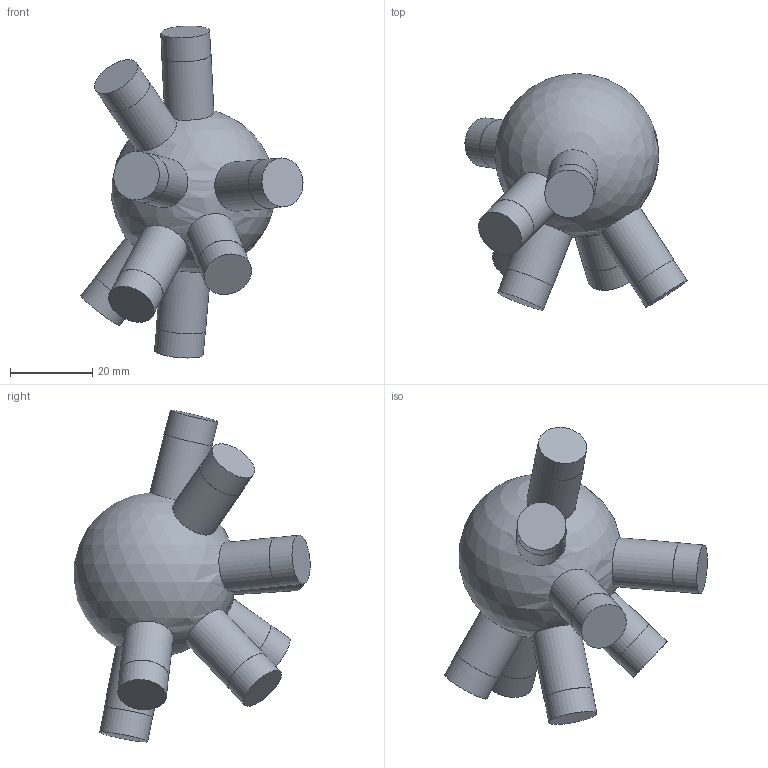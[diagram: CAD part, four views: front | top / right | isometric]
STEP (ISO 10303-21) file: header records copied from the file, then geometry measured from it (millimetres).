
FILE_DESCRIPTION(('Open CASCADE Model'),'2;1');
FILE_NAME('Open CASCADE Shape Model','2026-10-21T12:47:57',('Author'),( 'Open CASCADE'),'Open CASCADE STEP processor 7.9','Open CASCADE 7.9' ,'Unknown');
FILE_SCHEMA(('AUTOMOTIVE_DESIGN { 1 0 10303 214 1 1 1 1 }'));
Length unit declared in the file: millimetre
Products named in the file (1): Open CASCADE STEP translator 7.9 114
Bounding box: 54.03 x 57.5 x 80.79 mm (x, y, z)
Volume: 50993.3 mm3; surface area: 10978.5 mm2
Topology: 1 solids, 1 shells, 33 faces, 59 edges, 40 vertices
Faces by surface type: cylinder 16, plane 16, sphere 1
Full cylindrical faces by diameter (mm): 11.9 x8, 12 x8
Entity records: 2523 total; most frequent: CARTESIAN_POINT 1209, DIRECTION 266, ORIENTED_EDGE 118, PCURVE 118, DEFINITIONAL_REPRESENTATION 118, LINE 88, VECTOR 88, AXIS2_PLACEMENT_3D 77
